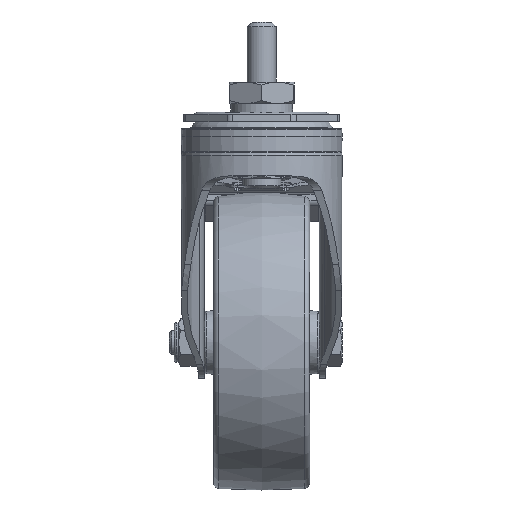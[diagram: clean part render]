
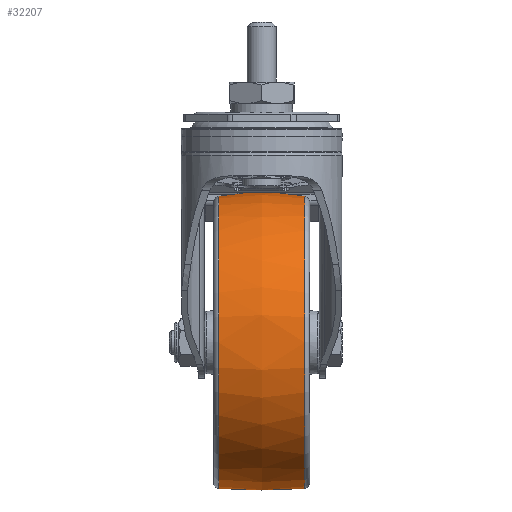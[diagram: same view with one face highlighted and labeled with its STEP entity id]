
A CAD part, left-side view. The second image highlights one B-rep face of the part: STEP entity #32207.
In plain terms, the highlighted free-form (B-spline) face has degree [2, 2] with [3, 9] control points.
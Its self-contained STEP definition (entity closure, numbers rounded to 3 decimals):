
#25=(
BOUNDED_SURFACE()
B_SPLINE_SURFACE(2,2,((#56968,#56969,#56970,#56971,#56972,#56973,#56974,
#56975,#56976),(#56977,#56978,#56979,#56980,#56981,#56982,#56983,#56984,
#56985),(#56986,#56987,#56988,#56989,#56990,#56991,#56992,#56993,#56994)),
 .UNSPECIFIED.,.F.,.T.,.F.)
B_SPLINE_SURFACE_WITH_KNOTS((3,3),(3,2,2,2,3),(-0.18,0.18),
(-3.142,-1.571,0.,1.571,3.142),
 .UNSPECIFIED.)
GEOMETRIC_REPRESENTATION_ITEM()
RATIONAL_B_SPLINE_SURFACE(((1.,0.707,1.,0.707,1.,
0.707,1.,0.707,1.),(0.984,0.696,
0.984,0.696,0.984,0.696,
0.984,0.696,0.984),(1.,0.707,
1.,0.707,1.,0.707,1.,0.707,1.)))
REPRESENTATION_ITEM('')
SURFACE()
);
#4664=FACE_OUTER_BOUND('',#6573,.T.);
#6573=EDGE_LOOP('',(#30150,#30151,#30152,#30153));
#12933=CIRCLE('',#34172,60.876);
#12935=CIRCLE('',#34174,60.876);
#12936=CIRCLE('',#34175,100.);
#15994=VERTEX_POINT('',#56965);
#15995=VERTEX_POINT('',#56995);
#20716=EDGE_CURVE('',#15994,#15994,#12933,.T.);
#20718=EDGE_CURVE('',#15995,#15995,#12935,.T.);
#20719=EDGE_CURVE('',#15995,#15994,#12936,.T.);
#30150=ORIENTED_EDGE('',*,*,#20718,.F.);
#30151=ORIENTED_EDGE('',*,*,#20719,.T.);
#30152=ORIENTED_EDGE('',*,*,#20716,.T.);
#30153=ORIENTED_EDGE('',*,*,#20719,.F.);
#32207=ADVANCED_FACE('',(#4664),#25,.F.);
#34172=AXIS2_PLACEMENT_3D('',#56966,#40931,#40932);
#34174=AXIS2_PLACEMENT_3D('',#56996,#40935,#40936);
#34175=AXIS2_PLACEMENT_3D('',#56997,#40937,#40938);
#40931=DIRECTION('center_axis',(0.,-1.,0.));
#40932=DIRECTION('ref_axis',(0.,0.,
-1.));
#40935=DIRECTION('center_axis',(0.,-1.,0.));
#40936=DIRECTION('ref_axis',(0.,0.,
-1.));
#40937=DIRECTION('center_axis',(-1.,0.,0.));
#40938=DIRECTION('ref_axis',(0.,0.,1.));
#56965=CARTESIAN_POINT('',(32.,17.949,-35.424));
#56966=CARTESIAN_POINT('Origin',(32.,17.949,-96.3));
#56968=CARTESIAN_POINT('Ctrl Pts',(32.,17.949,-35.424));
#56969=CARTESIAN_POINT('Ctrl Pts',(-28.876,17.949,-35.424));
#56970=CARTESIAN_POINT('Ctrl Pts',(-28.876,17.949,-96.3));
#56971=CARTESIAN_POINT('Ctrl Pts',(-28.876,17.949,-157.176));
#56972=CARTESIAN_POINT('Ctrl Pts',(32.,17.949,-157.176));
#56973=CARTESIAN_POINT('Ctrl Pts',(92.876,17.949,-157.176));
#56974=CARTESIAN_POINT('Ctrl Pts',(92.876,17.949,-96.3));
#56975=CARTESIAN_POINT('Ctrl Pts',(92.876,17.949,-35.424));
#56976=CARTESIAN_POINT('Ctrl Pts',(32.,17.949,-35.424));
#56977=CARTESIAN_POINT('Ctrl Pts',(32.,0.,
-32.149));
#56978=CARTESIAN_POINT('Ctrl Pts',(-32.151,0.,
-32.149));
#56979=CARTESIAN_POINT('Ctrl Pts',(-32.151,0.,
-96.3));
#56980=CARTESIAN_POINT('Ctrl Pts',(-32.151,0.,
-160.451));
#56981=CARTESIAN_POINT('Ctrl Pts',(32.,0.,
-160.451));
#56982=CARTESIAN_POINT('Ctrl Pts',(96.151,0.,
-160.451));
#56983=CARTESIAN_POINT('Ctrl Pts',(96.151,0.,
-96.3));
#56984=CARTESIAN_POINT('Ctrl Pts',(96.151,0.,
-32.149));
#56985=CARTESIAN_POINT('Ctrl Pts',(32.,0.,
-32.149));
#56986=CARTESIAN_POINT('Ctrl Pts',(32.,-17.949,-35.424));
#56987=CARTESIAN_POINT('Ctrl Pts',(-28.876,-17.949,
-35.424));
#56988=CARTESIAN_POINT('Ctrl Pts',(-28.876,-17.949,
-96.3));
#56989=CARTESIAN_POINT('Ctrl Pts',(-28.876,-17.949,
-157.176));
#56990=CARTESIAN_POINT('Ctrl Pts',(32.,-17.949,-157.176));
#56991=CARTESIAN_POINT('Ctrl Pts',(92.876,-17.949,-157.176));
#56992=CARTESIAN_POINT('Ctrl Pts',(92.876,-17.949,-96.3));
#56993=CARTESIAN_POINT('Ctrl Pts',(92.876,-17.949,-35.424));
#56994=CARTESIAN_POINT('Ctrl Pts',(32.,-17.949,-35.424));
#56995=CARTESIAN_POINT('',(32.,-17.949,-35.424));
#56996=CARTESIAN_POINT('Origin',(32.,-17.949,-96.3));
#56997=CARTESIAN_POINT('Origin',(32.,0.,
-133.8));
